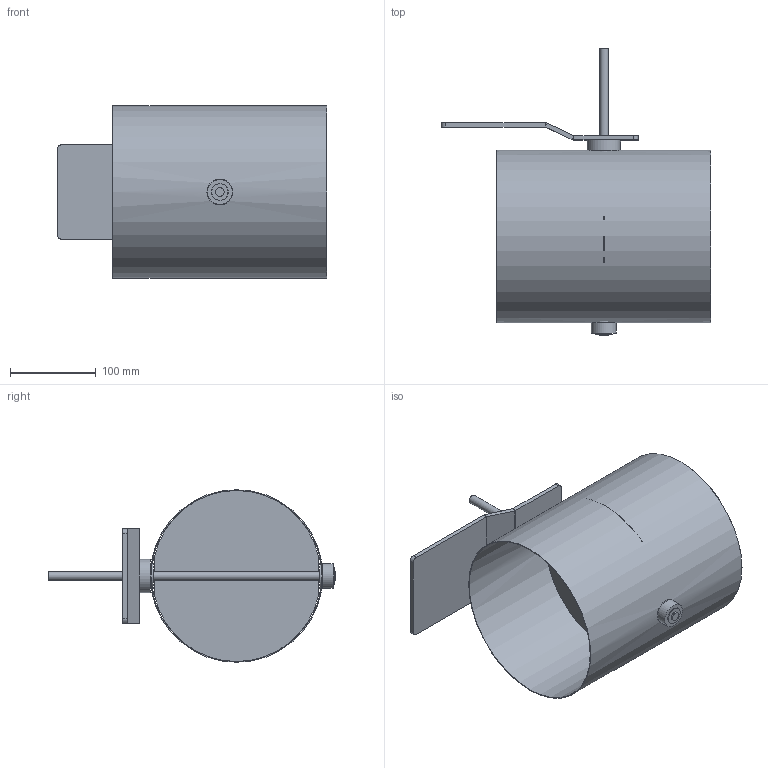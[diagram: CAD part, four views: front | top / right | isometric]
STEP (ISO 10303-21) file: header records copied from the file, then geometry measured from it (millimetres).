
FILE_DESCRIPTION(/* description */ (''),/* implementation_level */ '2;1');
FILE_NAME(/* name */ 'AA101-80B__200_L250_Belimo_Typen_NF_SF.stp',/* time_stamp */ '2017-12-06T14:21:08+01:00',/* author */ (''),/* organization */ (''),/* preprocessor_version */ 'ST-DEVELOPER v11',/* originating_system */ 'SIEMENS UGS NX 6.0',/* authorisation */ '');
FILE_SCHEMA (('CONFIG_CONTROL_DESIGN'));
Length unit declared in the file: millimetre
Products named in the file (1): gars18E2j26o
Bounding box: 315 x 336 x 201.6 mm (x, y, z)
Volume: 336086.7 mm3; surface area: 455410.8 mm2
Topology: 8 solids, 8 shells, 65 faces, 132 edges, 85 vertices
Faces by surface type: plane 36, cylinder 29
Full cylindrical faces by diameter (mm): 4.1 x3, 10 x3, 19 x3, 19.85 x2, 20 x2, 29 x1, 30 x2, 39 x1, 200 x1, 201.6 x1
Entity records: 1726 total; most frequent: CARTESIAN_POINT 318, DIRECTION 288, ORIENTED_EDGE 212, AXIS2_PLACEMENT_3D 120, EDGE_LOOP 108, EDGE_CURVE 106, FACE_BOUND 78, VERTEX_POINT 78
